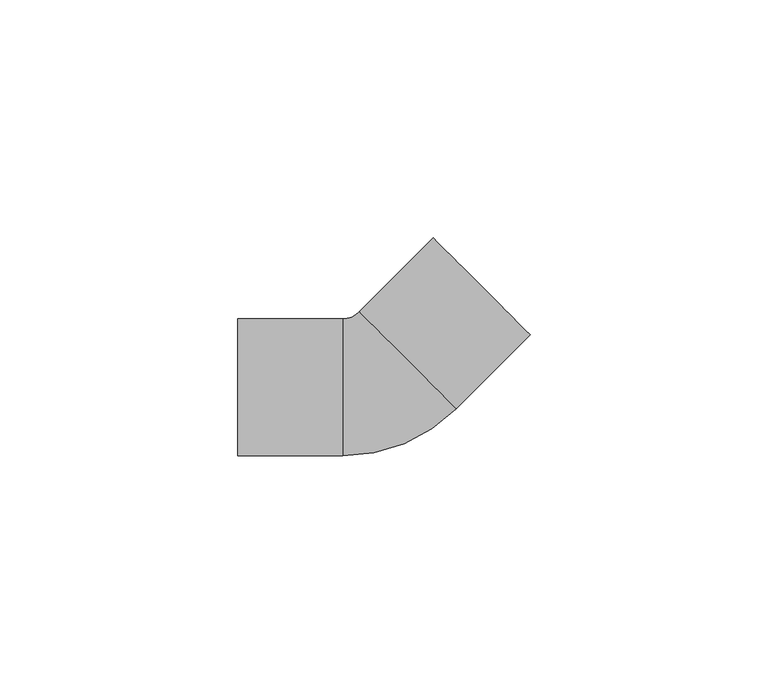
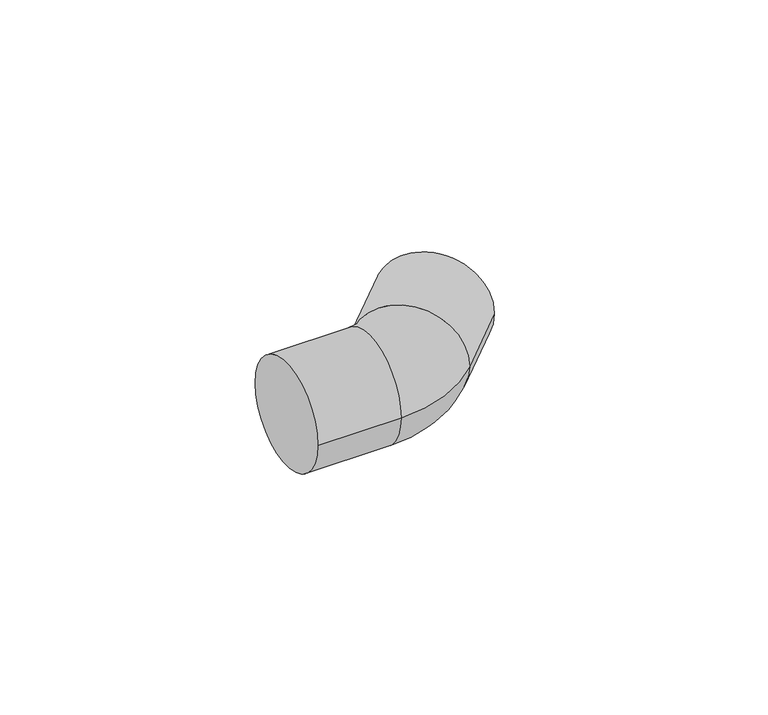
"""IFC4 building model written with IfcOpenShell, lengths in millimetres: pipe fitting geometry, 01051067 : Joelho a 45º."""

from ifc_helpers import new_model, si_unit, point, frame, origin, place, context, project, spatial, circle_curve, ellipse_curve, trimmed, source, transform, mapped, element, save
from ifc_brep_helpers import plane_surface, cylinder_surface, revolved_surface, advanced_brep


def pipe_fitting_d24e0afa(model_context):
    return source(origin(), model_context, "Body", "AdvancedBrep", [
        advanced_brep(
        [(-30.0, -14.4, 0.0), (-30.0, 14.4, 0.0), (-8.0, -14.4, 0.0), (-8.0, 14.4, 0.0), (-4.5254834, 15.8391919, 0.0), (15.8391919, -4.5254834, 0.0), (31.3955411, 11.0308658, 0.0), (11.0308658, 31.3955411, 0.0)],
        [
            (0, 1, circle_curve(frame((-30.0, 0.0, 0.0), z_axis=(-1.0, 0.0, 0.0), x_axis=(0.0, 1.0, 0.0)), 14.4)),
            (1, 0, circle_curve(frame((-30.0, 0.0, 0.0), z_axis=(-1.0, 0.0, 0.0), x_axis=(0.0, 1.0, 0.0)), 14.4)),
            (0, 2),
            (2, 3, circle_curve(frame((-8.0, 0.0, 0.0), z_axis=(-1.0, 0.0, 0.0), x_axis=(0.0, 1.0, 0.0)), 14.4)),
            (3, 1),
            (3, 2, circle_curve(frame((-8.0, 0.0, 0.0), z_axis=(-1.0, 0.0, 0.0), x_axis=(0.0, 1.0, 0.0)), 14.4)),
            (4, 3, circle_curve(frame((-8.0, 19.3137085, 0.0), z_axis=(0.0, 0.0, -1.0), x_axis=(0.0, -1.0, 0.0)), 4.9137085)),
            (2, 5, circle_curve(frame((-8.0, 19.3137085, 0.0), z_axis=(0.0, 0.0, 1.0), x_axis=(0.0, -1.0, 0.0)), 33.7137085)),
            (5, 4, circle_curve(frame((5.6568542, 5.6568542, 0.0), z_axis=(-0.7071067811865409, -0.7071067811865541, 0.0), x_axis=(-0.7071067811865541, 0.7071067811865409, 0.0)), 14.4)),
            (4, 5, circle_curve(frame((5.6568542, 5.6568542, 0.0), z_axis=(-0.7071067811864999, -0.7071067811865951, 0.0), x_axis=(-0.7071067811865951, 0.7071067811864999, 0.0)), 14.4)),
            (6, 7, circle_curve(frame((21.2132034, 21.2132034, 0.0), z_axis=(0.7071067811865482, 0.7071067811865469, 0.0), x_axis=(-0.7071067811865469, 0.7071067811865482, 0.0)), 14.4)),
            (7, 6, circle_curve(frame((21.2132034, 21.2132034, 0.0), z_axis=(0.7071067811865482, 0.7071067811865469, 0.0), x_axis=(-0.7071067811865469, 0.7071067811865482, 0.0)), 14.4)),
            (5, 6),
            (7, 4),
        ],
        [
            plane_surface(frame((-30.0, 0.0, 0.0), z_axis=(-1.0, 0.0, 0.0), x_axis=(0.0, 0.0, 1.0))),
            cylinder_surface(frame((-30.0, 0.0, 0.0), z_axis=(-1.0, 0.0, 0.0), x_axis=(0.0, 1.0, 0.0)), 14.4),
            revolved_surface(trimmed(ellipse_curve(frame((-8.0, 0.0, 0.0), z_axis=(-1.0, 0.0, 0.0), x_axis=(0.0, 1.0, 0.0)), 14.4, 14.4), [point((-8.0, -14.4, 0.0))], [point((-8.0, 14.4, 0.0))], True, "CARTESIAN"), (-8.0, 19.3137085, 0.0), (0.0, 0.0, 1.0)),
            revolved_surface(trimmed(ellipse_curve(frame((-8.0, 0.0, 0.0), z_axis=(-1.0, 0.0, 0.0), x_axis=(0.0, 1.0, 0.0)), 14.4, 14.4), [point((-8.0, 14.4, 0.0))], [point((-8.0, -14.4, 0.0))], True, "CARTESIAN"), (-8.0, 19.3137085, 0.0), (0.0, 0.0, 1.0)),
            plane_surface(frame((21.2132034, 21.2132034, 0.0), z_axis=(0.7071067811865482, 0.7071067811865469, 0.0), x_axis=(0.0, 0.0, 1.0))),
            cylinder_surface(frame((5.6568542, 5.6568542, 0.0), z_axis=(-0.7071067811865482, -0.7071067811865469, 0.0), x_axis=(-0.7071067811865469, 0.7071067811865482, 0.0)), 14.4),
        ],
        [
            (0, [[1, 2]]),
            (1, [[-1, 3, 4, 5]]),
            (1, [[-2, -5, 6, -3]]),
            (2, [[7, -4, 8, 9]]),
            (3, [[-8, -6, -7, 10]]),
            (4, [[11, 12]]),
            (5, [[-9, 13, -12, 14]]),
            (5, [[-10, -14, -11, -13]]),
        ],
    ),
    ])


if __name__ == "__main__":
    model = new_model("IFC4")
    model_context = context("Model", 3, world=origin())
    ifc_project = project(units=[si_unit("LENGTHUNIT", "METRE", prefix="MILLI")], contexts=[model_context])
    site = spatial("IfcSite", under=ifc_project)
    building = spatial("IfcBuilding", under=site)
    placement = place(None, origin())
    pipe_fitting_shape = pipe_fitting_d24e0afa(model_context)
    element("IfcPipeFitting", 1, ObjectType="01051067 : Joelho a 45º", at=placement, inside=building, context=model_context, shape_type="MappedRepresentation", body=[
        mapped(pipe_fitting_shape, transform((0.0, 0.0, 0.0), x_axis=(1.0, 0.0, 0.0), y_axis=(0.0, 1.0, 0.0), z_axis=(0.0, 0.0, 1.0))),
    ])
    save(model, "model.ifc")
